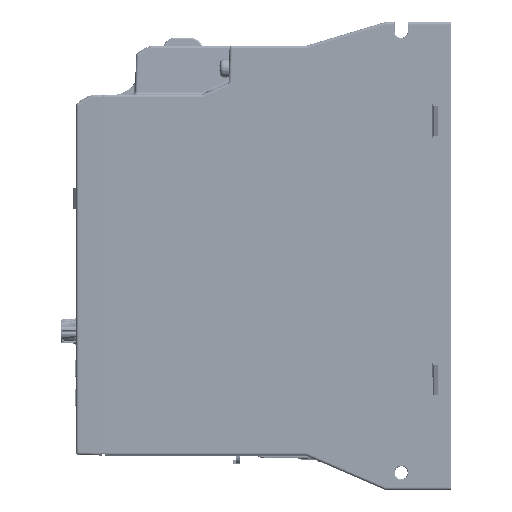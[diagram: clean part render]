
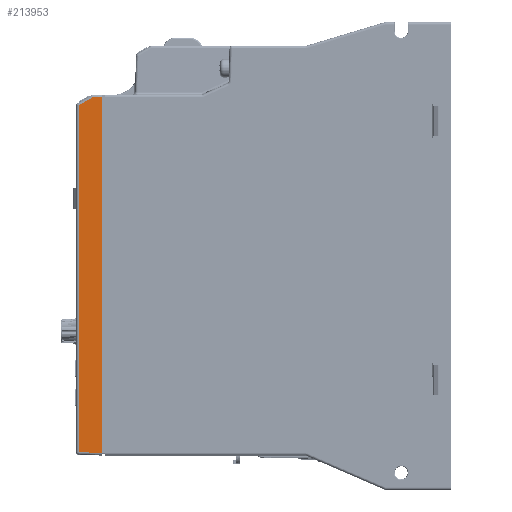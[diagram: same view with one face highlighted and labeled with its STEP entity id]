
A CAD part, left-side view. The second image highlights one B-rep face of the part: STEP entity #213953.
In plain terms, the highlighted planar face has unit normal (-0.999, 0.035, 0).
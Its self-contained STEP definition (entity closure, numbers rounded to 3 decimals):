
#30398=FACE_OUTER_BOUND('',#42556,.T.);
#42556=EDGE_LOOP('',(#181814,#181815,#181816,#181817,#181818));
#60371=LINE('',#453946,#80974);
#60383=LINE('',#456811,#80986);
#61582=LINE('',#462650,#82185);
#61583=LINE('',#462653,#82186);
#61584=LINE('',#462654,#82187);
#80974=VECTOR('',#267504,3.767);
#80986=VECTOR('',#267614,134.501);
#82185=VECTOR('',#270381,6.104);
#82186=VECTOR('',#270384,131.111);
#82187=VECTOR('',#270385,9.046);
#100935=VERTEX_POINT('',#453941);
#100936=VERTEX_POINT('',#453944);
#100971=VERTEX_POINT('',#456810);
#102360=VERTEX_POINT('',#462648);
#102361=VERTEX_POINT('',#462652);
#128011=EDGE_CURVE('',#100936,#100935,#60371,.T.);
#128076=EDGE_CURVE('',#100935,#100971,#60383,.T.);
#129875=EDGE_CURVE('',#102360,#100936,#61582,.T.);
#129876=EDGE_CURVE('',#102361,#102360,#61583,.T.);
#129877=EDGE_CURVE('',#102361,#100971,#61584,.T.);
#181814=ORIENTED_EDGE('',*,*,#128011,.F.);
#181815=ORIENTED_EDGE('',*,*,#129875,.F.);
#181816=ORIENTED_EDGE('',*,*,#129876,.F.);
#181817=ORIENTED_EDGE('',*,*,#129877,.T.);
#181818=ORIENTED_EDGE('',*,*,#128076,.F.);
#204031=PLANE('',#228430);
#213953=ADVANCED_FACE('',(#30398),#204031,.T.);
#228430=AXIS2_PLACEMENT_3D('',#462651,#270382,#270383);
#267504=DIRECTION('',(-0.035,-0.999,0.));
#267614=DIRECTION('',(0.,0.,-1.));
#270381=DIRECTION('',(-0.03,-0.863,0.504));
#270382=DIRECTION('center_axis',(-0.999,0.035,
0.));
#270383=DIRECTION('ref_axis',(0.,0.,1.));
#270384=DIRECTION('',(0.,0.,1.));
#270385=DIRECTION('',(-0.035,-0.999,-0.035));
#453941=CARTESIAN_POINT('',(-32.5,130.,58.));
#453944=CARTESIAN_POINT('',(-32.369,133.765,58.));
#453946=CARTESIAN_POINT('',(-32.369,133.765,58.));
#456810=CARTESIAN_POINT('',(-32.5,130.,-76.501));
#456811=CARTESIAN_POINT('',(-32.5,130.,58.));
#462648=CARTESIAN_POINT('',(-32.184,139.035,54.926));
#462650=CARTESIAN_POINT('',(-32.184,139.035,54.926));
#462651=CARTESIAN_POINT('Origin',(-32.5,130.,-90.5));
#462652=CARTESIAN_POINT('',(-32.184,139.035,-76.185));
#462653=CARTESIAN_POINT('',(-32.184,139.035,-76.185));
#462654=CARTESIAN_POINT('',(-32.184,139.035,-76.185));
